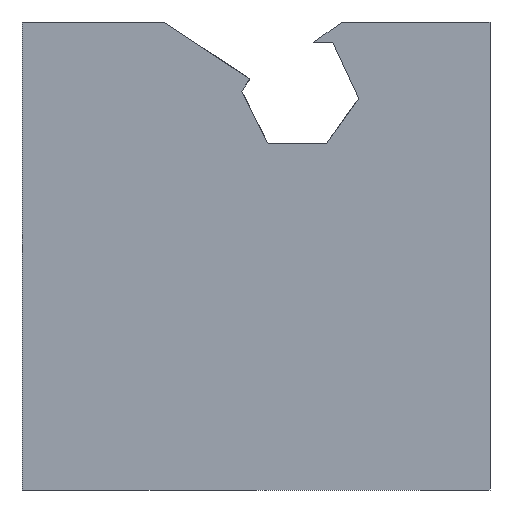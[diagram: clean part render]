
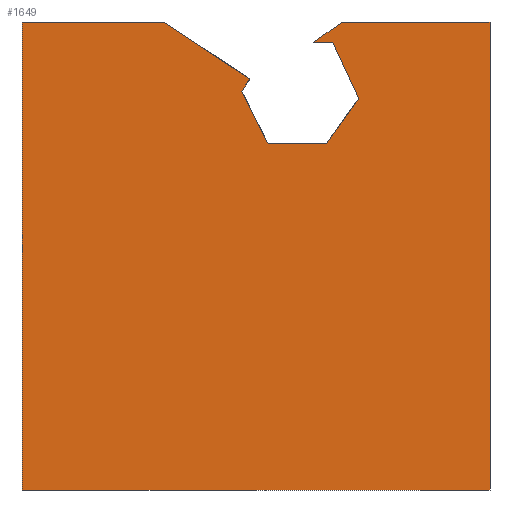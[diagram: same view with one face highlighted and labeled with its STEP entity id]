
A CAD part, left-side view. The second image highlights one B-rep face of the part: STEP entity #1649.
In plain terms, the highlighted planar face has unit normal (-1, 0, 0).
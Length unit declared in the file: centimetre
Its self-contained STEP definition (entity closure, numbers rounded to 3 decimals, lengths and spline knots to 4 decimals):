
#11 = ORIENTED_EDGE ( 'NONE', *, *, #77, .F. ) ;
#16 = VECTOR ( 'NONE', #241, 100. ) ;
#35 = EDGE_CURVE ( 'NONE', #355, #393, #209, .T. ) ;
#36 = LINE ( 'NONE', #1193, #1064 ) ;
#51 = CARTESIAN_POINT ( 'NONE',  ( 0., 1000., 1000. ) ) ;
#66 = VECTOR ( 'NONE', #857, 100. ) ;
#77 = EDGE_CURVE ( 'NONE', #798, #1074, #616, .T. ) ;
#151 = ORIENTED_EDGE ( 'NONE', *, *, #1578, .T. ) ;
#208 = EDGE_CURVE ( 'NONE', #1214, #792, #1844, .T. ) ;
#209 = LINE ( 'NONE', #1491, #992 ) ;
#219 = VECTOR ( 'NONE', #1890, 100. ) ;
#224 = EDGE_CURVE ( 'NONE', #1828, #1518, #823, .T. ) ;
#228 = LINE ( 'NONE', #1705, #935 ) ;
#231 = CARTESIAN_POINT ( 'NONE',  ( 0., 1000., 0. ) ) ;
#232 = CARTESIAN_POINT ( 'NONE',  ( 0., 0., 0. ) ) ;
#241 = DIRECTION ( 'NONE',  ( 0., -1., 0. ) ) ;
#253 = CARTESIAN_POINT ( 'NONE',  ( 0., 530.1859, 852.4392 ) ) ;
#265 = AXIS2_PLACEMENT_3D ( 'NONE', #994, #1446, #546 ) ;
#297 = ORIENTED_EDGE ( 'NONE', *, *, #662, .T. ) ;
#306 = EDGE_CURVE ( 'NONE', #1125, #1893, #228, .T. ) ;
#324 = CARTESIAN_POINT ( 'NONE',  ( 0., 530.1859, 852.4392 ) ) ;
#346 = CARTESIAN_POINT ( 'NONE',  ( 0., 474.3504, 740.3577 ) ) ;
#355 = VERTEX_POINT ( 'NONE', #810 ) ;
#365 = VECTOR ( 'NONE', #1293, 100. ) ;
#367 = VERTEX_POINT ( 'NONE', #530 ) ;
#373 = VECTOR ( 'NONE', #1418, 100. ) ;
#393 = VERTEX_POINT ( 'NONE', #1884 ) ;
#420 = PLANE ( 'NONE',  #265 ) ;
#434 = ORIENTED_EDGE ( 'NONE', *, *, #1034, .T. ) ;
#441 = CARTESIAN_POINT ( 'NONE',  ( 0., 0., 1000. ) ) ;
#482 = EDGE_LOOP ( 'NONE', ( #1226, #151, #510, #1594, #778, #1057, #11, #1634, #964, #1263, #297, #495, #434 ) ) ;
#495 = ORIENTED_EDGE ( 'NONE', *, *, #306, .T. ) ;
#510 = ORIENTED_EDGE ( 'NONE', *, *, #35, .F. ) ;
#513 = CARTESIAN_POINT ( 'NONE',  ( 0., 1000., 1000. ) ) ;
#516 = CARTESIAN_POINT ( 'NONE',  ( 0., 280.2195, 837.0676 ) ) ;
#530 = CARTESIAN_POINT ( 'NONE',  ( 0., 513.0182, 878.3581 ) ) ;
#546 = DIRECTION ( 'NONE',  ( 0., 0., -1. ) ) ;
#616 = LINE ( 'NONE', #51, #660 ) ;
#648 = DIRECTION ( 'NONE',  ( 0., -1., 0. ) ) ;
#660 = VECTOR ( 'NONE', #648, 100. ) ;
#662 = EDGE_CURVE ( 'NONE', #1518, #1125, #766, .T. ) ;
#694 = LINE ( 'NONE', #1575, #66 ) ;
#698 = VECTOR ( 'NONE', #1559, 100. ) ;
#700 = CARTESIAN_POINT ( 'NONE',  ( 0., 280.2195, 837.0676 ) ) ;
#758 = CARTESIAN_POINT ( 'NONE',  ( 0., 336.055, 956.8349 ) ) ;
#766 = LINE ( 'NONE', #516, #1335 ) ;
#778 = ORIENTED_EDGE ( 'NONE', *, *, #208, .T. ) ;
#792 = VERTEX_POINT ( 'NONE', #232 ) ;
#798 = VERTEX_POINT ( 'NONE', #841 ) ;
#802 = LINE ( 'NONE', #253, #698 ) ;
#810 = CARTESIAN_POINT ( 'NONE',  ( 0., 1000., 1000. ) ) ;
#823 = LINE ( 'NONE', #1690, #1369 ) ;
#841 = CARTESIAN_POINT ( 'NONE',  ( 0., 315.584, 1000. ) ) ;
#852 = CARTESIAN_POINT ( 'NONE',  ( 0., 0., 1000. ) ) ;
#857 = DIRECTION ( 'NONE',  ( 0., 0.817, -0.577 ) ) ;
#918 = VECTOR ( 'NONE', #1025, 100. ) ;
#935 = VECTOR ( 'NONE', #1712, 100. ) ;
#964 = ORIENTED_EDGE ( 'NONE', *, *, #1702, .T. ) ;
#992 = VECTOR ( 'NONE', #1247, 100. ) ;
#994 = CARTESIAN_POINT ( 'NONE',  ( 0., 1000., 1000. ) ) ;
#1011 = LINE ( 'NONE', #1285, #365 ) ;
#1025 = DIRECTION ( 'NONE',  ( 0., 0.446, 0.895 ) ) ;
#1034 = EDGE_CURVE ( 'NONE', #1893, #1858, #1592, .T. ) ;
#1057 = ORIENTED_EDGE ( 'NONE', *, *, #1164, .F. ) ;
#1064 = VECTOR ( 'NONE', #1075, 100. ) ;
#1074 = VERTEX_POINT ( 'NONE', #852 ) ;
#1075 = DIRECTION ( 'NONE',  ( 0., -1., 0. ) ) ;
#1081 = DIRECTION ( 'NONE',  ( 0., 0.582, -0.813 ) ) ;
#1125 = VERTEX_POINT ( 'NONE', #1150 ) ;
#1150 = CARTESIAN_POINT ( 'NONE',  ( 0., 349.3672, 740.3577 ) ) ;
#1164 = EDGE_CURVE ( 'NONE', #1074, #792, #1311, .T. ) ;
#1193 = CARTESIAN_POINT ( 'NONE',  ( 0., 461.0382, 956.8349 ) ) ;
#1214 = VERTEX_POINT ( 'NONE', #1633 ) ;
#1226 = ORIENTED_EDGE ( 'NONE', *, *, #1483, .T. ) ;
#1247 = DIRECTION ( 'NONE',  ( 0., -1., 0. ) ) ;
#1263 = ORIENTED_EDGE ( 'NONE', *, *, #224, .T. ) ;
#1264 = DIRECTION ( 'NONE',  ( 0., -0.423, -0.906 ) ) ;
#1285 = CARTESIAN_POINT ( 'NONE',  ( 0., 500., 869.7936 ) ) ;
#1293 = DIRECTION ( 'NONE',  ( 0., 0.835, 0.55 ) ) ;
#1311 = LINE ( 'NONE', #441, #219 ) ;
#1326 = VERTEX_POINT ( 'NONE', #1622 ) ;
#1335 = VECTOR ( 'NONE', #1081, 100. ) ;
#1361 = EDGE_CURVE ( 'NONE', #355, #1214, #1706, .T. ) ;
#1369 = VECTOR ( 'NONE', #1264, 100. ) ;
#1418 = DIRECTION ( 'NONE',  ( 0., 0., -1. ) ) ;
#1446 = DIRECTION ( 'NONE',  ( 1., 0., 0. ) ) ;
#1483 = EDGE_CURVE ( 'NONE', #1858, #367, #802, .T. ) ;
#1491 = CARTESIAN_POINT ( 'NONE',  ( 0., 1000., 1000. ) ) ;
#1518 = VERTEX_POINT ( 'NONE', #700 ) ;
#1533 = EDGE_CURVE ( 'NONE', #798, #1326, #694, .T. ) ;
#1559 = DIRECTION ( 'NONE',  ( 0., -0.552, 0.834 ) ) ;
#1575 = CARTESIAN_POINT ( 'NONE',  ( 0., 315.584, 1000. ) ) ;
#1578 = EDGE_CURVE ( 'NONE', #367, #393, #1011, .T. ) ;
#1592 = LINE ( 'NONE', #1722, #918 ) ;
#1594 = ORIENTED_EDGE ( 'NONE', *, *, #1361, .T. ) ;
#1622 = CARTESIAN_POINT ( 'NONE',  ( 0., 376.7202, 956.8349 ) ) ;
#1633 = CARTESIAN_POINT ( 'NONE',  ( 0., 1000., 0. ) ) ;
#1634 = ORIENTED_EDGE ( 'NONE', *, *, #1533, .T. ) ;
#1649 = ADVANCED_FACE ( 'NONE', ( #1732 ), #420, .F. ) ;
#1690 = CARTESIAN_POINT ( 'NONE',  ( 0., 336.055, 956.8349 ) ) ;
#1702 = EDGE_CURVE ( 'NONE', #1326, #1828, #36, .T. ) ;
#1705 = CARTESIAN_POINT ( 'NONE',  ( 0., 349.3672, 740.3577 ) ) ;
#1706 = LINE ( 'NONE', #513, #373 ) ;
#1712 = DIRECTION ( 'NONE',  ( 0., 1., 0. ) ) ;
#1722 = CARTESIAN_POINT ( 'NONE',  ( 0., 474.3504, 740.3577 ) ) ;
#1732 = FACE_OUTER_BOUND ( 'NONE', #482, .T. ) ;
#1828 = VERTEX_POINT ( 'NONE', #758 ) ;
#1844 = LINE ( 'NONE', #231, #16 ) ;
#1858 = VERTEX_POINT ( 'NONE', #324 ) ;
#1884 = CARTESIAN_POINT ( 'NONE',  ( 0., 697.9176, 1000. ) ) ;
#1890 = DIRECTION ( 'NONE',  ( 0., 0., -1. ) ) ;
#1893 = VERTEX_POINT ( 'NONE', #346 ) ;
